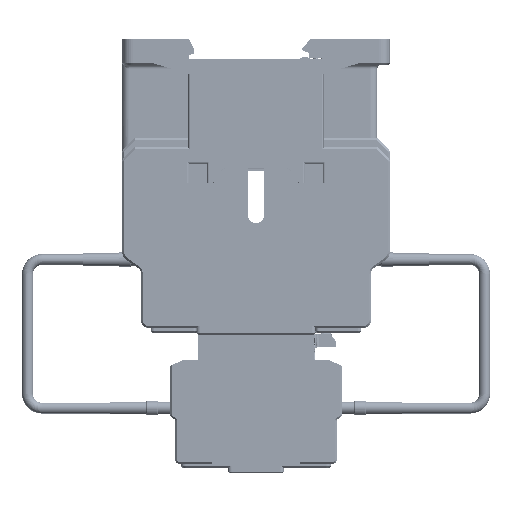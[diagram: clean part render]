
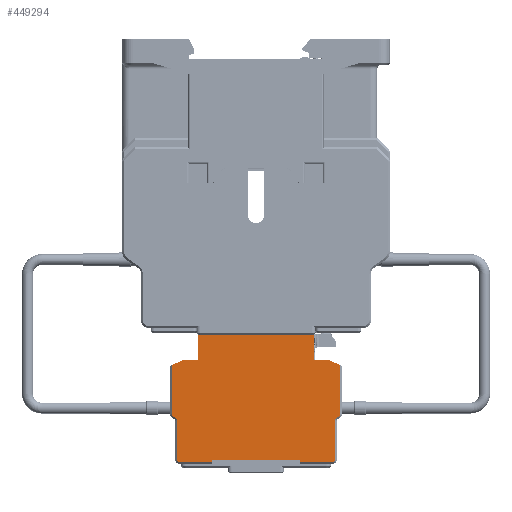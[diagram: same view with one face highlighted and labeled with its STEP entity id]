
A CAD part, left-side view. The second image highlights one B-rep face of the part: STEP entity #449294.
In plain terms, the highlighted planar face has unit normal (-1, 0, 0) as drawn and (1, 0, 0) by its records, which use the part's own axes.
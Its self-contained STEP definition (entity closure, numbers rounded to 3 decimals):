
#407339=DIRECTION('',(0.,-1.,0.));
#407340=VECTOR('',#407339,4.25);
#407341=CARTESIAN_POINT('',(22.25,-16.,10.9));
#407342=LINE('',#407341,#407340);
#414361=DIRECTION('',(0.,-1.,0.));
#414362=VECTOR('',#414361,9.068);
#414363=CARTESIAN_POINT('',(22.25,-12.182,-17.1));
#414364=LINE('',#414363,#414362);
#414368=CARTESIAN_POINT('',(22.25,-21.25,-16.6));
#414369=DIRECTION('',(-1.,0.,0.));
#414370=DIRECTION('',(0.,0.,-1.));
#414371=AXIS2_PLACEMENT_3D('',#414368,#414369,#414370);
#414376=DIRECTION('',(0.,0.,1.));
#414377=VECTOR('',#414376,10.679);
#414378=CARTESIAN_POINT('',(22.25,-21.75,-16.6));
#414379=LINE('',#414378,#414377);
#414383=CARTESIAN_POINT('',(22.25,-22.85,-5.921));
#414384=DIRECTION('',(1.,0.,0.));
#414385=DIRECTION('',(0.,1.,0.));
#414386=AXIS2_PLACEMENT_3D('',#414383,#414384,#414385);
#414391=DIRECTION('',(0.,-0.832,0.555));
#414392=VECTOR('',#414391,0.679);
#414393=CARTESIAN_POINT('',(22.25,-22.24,
-5.006));
#414394=LINE('',#414393,#414392);
#414398=CARTESIAN_POINT('',(22.25,-22.25,-3.797));
#414399=DIRECTION('',(-1.,0.,0.));
#414400=DIRECTION('',(0.,-0.555,-0.832));
#414401=AXIS2_PLACEMENT_3D('',#414398,#414399,#414400);
#414406=DIRECTION('',(0.,0.,1.));
#414407=VECTOR('',#414406,13.412);
#414408=CARTESIAN_POINT('',(22.25,-23.25,-3.797));
#414409=LINE('',#414408,#414407);
#414413=DIRECTION('',(0.,-0.919,-0.394));
#414414=VECTOR('',#414413,3.264);
#414415=CARTESIAN_POINT('',(22.25,-20.25,10.9));
#414416=LINE('',#414415,#414414);
#414420=DIRECTION('',(0.,0.,-1.));
#414421=VECTOR('',#414420,7.);
#414422=CARTESIAN_POINT('',(22.25,-16.,17.9));
#414423=LINE('',#414422,#414421);
#414427=DIRECTION('',(0.,1.,0.));
#414428=VECTOR('',#414427,32.);
#414429=CARTESIAN_POINT('',(22.25,-16.,17.9));
#414430=LINE('',#414429,#414428);
#414434=DIRECTION('',(0.,0.,-1.));
#414435=VECTOR('',#414434,7.);
#414436=CARTESIAN_POINT('',(22.25,16.,17.9));
#414437=LINE('',#414436,#414435);
#414441=DIRECTION('',(0.,-0.919,0.394));
#414442=VECTOR('',#414441,3.264);
#414443=CARTESIAN_POINT('',(22.25,23.25,9.614));
#414444=LINE('',#414443,#414442);
#414448=DIRECTION('',(0.,0.,-1.));
#414449=VECTOR('',#414448,13.412);
#414450=CARTESIAN_POINT('',(22.25,23.25,9.614));
#414451=LINE('',#414450,#414449);
#414455=CARTESIAN_POINT('',(22.25,22.25,-3.797));
#414456=DIRECTION('',(-1.,0.,0.));
#414457=DIRECTION('',(0.,1.,0.));
#414458=AXIS2_PLACEMENT_3D('',#414455,#414456,#414457);
#414463=DIRECTION('',(0.,-0.832,
-0.555));
#414464=VECTOR('',#414463,0.679);
#414465=CARTESIAN_POINT('',(22.25,22.805,-4.629));
#414466=LINE('',#414465,#414464);
#414470=CARTESIAN_POINT('',(22.25,22.85,-5.921));
#414471=DIRECTION('',(1.,0.,0.));
#414472=DIRECTION('',(0.,-0.555,0.832));
#414473=AXIS2_PLACEMENT_3D('',#414470,#414471,#414472);
#414478=DIRECTION('',(0.,0.,-1.));
#414479=VECTOR('',#414478,10.679);
#414480=CARTESIAN_POINT('',(22.25,21.75,
-5.921));
#414481=LINE('',#414480,#414479);
#414485=CARTESIAN_POINT('',(22.25,21.25,-16.6));
#414486=DIRECTION('',(-1.,0.,0.));
#414487=DIRECTION('',(0.,1.,0.));
#414488=AXIS2_PLACEMENT_3D('',#414485,#414486,#414487);
#414493=DIRECTION('',(0.,-1.,0.));
#414494=VECTOR('',#414493,9.068);
#414495=CARTESIAN_POINT('',(22.25,21.25,-17.1));
#414496=LINE('',#414495,#414494);
#414500=DIRECTION('',(0.,0.135,-0.991));
#414501=VECTOR('',#414500,0.606);
#414502=CARTESIAN_POINT('',(22.25,12.1,-16.5));
#414503=LINE('',#414502,#414501);
#414507=DIRECTION('',(0.,1.,0.));
#414508=VECTOR('',#414507,24.2);
#414509=CARTESIAN_POINT('',(22.25,-12.1,-16.5));
#414510=LINE('',#414509,#414508);
#414514=DIRECTION('',(0.,0.135,0.991));
#414515=VECTOR('',#414514,0.606);
#414516=CARTESIAN_POINT('',(22.25,-12.182,-17.1));
#414517=LINE('',#414516,#414515);
#421893=DIRECTION('',(0.,-1.,0.));
#421894=VECTOR('',#421893,4.25);
#421895=CARTESIAN_POINT('',(22.25,20.25,10.9));
#421896=LINE('',#421895,#421894);
#437149=CARTESIAN_POINT('',(22.25,16.,17.9));
#437151=VERTEX_POINT('',#437149);
#438459=CARTESIAN_POINT('',(22.25,16.,10.9));
#438460=VERTEX_POINT('',#438459);
#438476=CARTESIAN_POINT('',(22.25,-16.,17.9));
#438478=VERTEX_POINT('',#438476);
#438479=CARTESIAN_POINT('',(22.25,-16.,10.9));
#438480=VERTEX_POINT('',#438479);
#438569=CARTESIAN_POINT('',(22.25,-12.1,-16.5));
#438570=VERTEX_POINT('',#438569);
#438571=CARTESIAN_POINT('',(22.25,12.1,-16.5));
#438572=VERTEX_POINT('',#438571);
#438573=CARTESIAN_POINT('',(22.25,-20.25,10.9));
#438575=VERTEX_POINT('',#438573);
#438602=CARTESIAN_POINT('',(22.25,20.25,10.9));
#438604=VERTEX_POINT('',#438602);
#439249=CARTESIAN_POINT('',(22.25,-12.182,-17.1));
#439251=VERTEX_POINT('',#439249);
#439255=CARTESIAN_POINT('',(22.25,-21.25,-17.1));
#439256=VERTEX_POINT('',#439255);
#439258=CARTESIAN_POINT('',(22.25,-23.25,9.614));
#439260=VERTEX_POINT('',#439258);
#439261=CARTESIAN_POINT('',(22.25,-23.25,-3.797));
#439262=VERTEX_POINT('',#439261);
#439267=CARTESIAN_POINT('',(22.25,-22.805,-4.629));
#439268=VERTEX_POINT('',#439267);
#439271=CARTESIAN_POINT('',(22.25,-22.24,
-5.006));
#439272=VERTEX_POINT('',#439271);
#439275=CARTESIAN_POINT('',(22.25,-21.75,-5.921));
#439276=VERTEX_POINT('',#439275);
#439279=CARTESIAN_POINT('',(22.25,-21.75,-16.6));
#439280=VERTEX_POINT('',#439279);
#439322=CARTESIAN_POINT('',(22.25,12.182,-17.1));
#439324=VERTEX_POINT('',#439322);
#439325=CARTESIAN_POINT('',(22.25,21.25,-17.1));
#439326=VERTEX_POINT('',#439325);
#439331=CARTESIAN_POINT('',(22.25,23.25,9.614));
#439332=VERTEX_POINT('',#439331);
#439359=CARTESIAN_POINT('',(22.25,23.25,-3.797));
#439360=VERTEX_POINT('',#439359);
#439363=CARTESIAN_POINT('',(22.25,22.805,-4.629));
#439364=VERTEX_POINT('',#439363);
#439367=CARTESIAN_POINT('',(22.25,22.24,
-5.006));
#439368=VERTEX_POINT('',#439367);
#439371=CARTESIAN_POINT('',(22.25,21.75,-5.921));
#439372=VERTEX_POINT('',#439371);
#439375=CARTESIAN_POINT('',(22.25,21.75,-16.6));
#439376=VERTEX_POINT('',#439375);
#449253=CARTESIAN_POINT('',(22.25,-23.75,17.9));
#449254=DIRECTION('',(1.,0.,0.));
#449255=DIRECTION('',(0.,0.,-1.));
#449256=AXIS2_PLACEMENT_3D('',#449253,#449254,#449255);
#449257=PLANE('',#449256);
#449258=ORIENTED_EDGE('',*,*,#448971,.T.);
#449259=ORIENTED_EDGE('',*,*,#448985,.T.);
#449260=ORIENTED_EDGE('',*,*,#449112,.T.);
#449261=ORIENTED_EDGE('',*,*,#449127,.T.);
#449262=ORIENTED_EDGE('',*,*,#449220,.T.);
#449263=ORIENTED_EDGE('',*,*,#449234,.T.);
#449264=ORIENTED_EDGE('',*,*,#449246,.T.);
#449265=ORIENTED_EDGE('',*,*,#443837,.F.);
#449266=ORIENTED_EDGE('',*,*,#443749,.F.);
#449268=ORIENTED_EDGE('',*,*,#449267,.F.);
#449270=ORIENTED_EDGE('',*,*,#449269,.T.);
#449271=ORIENTED_EDGE('',*,*,#446465,.T.);
#449273=ORIENTED_EDGE('',*,*,#449272,.F.);
#449275=ORIENTED_EDGE('',*,*,#449274,.F.);
#449277=ORIENTED_EDGE('',*,*,#449276,.T.);
#449279=ORIENTED_EDGE('',*,*,#449278,.T.);
#449281=ORIENTED_EDGE('',*,*,#449280,.T.);
#449283=ORIENTED_EDGE('',*,*,#449282,.T.);
#449285=ORIENTED_EDGE('',*,*,#449284,.T.);
#449286=ORIENTED_EDGE('',*,*,#448895,.T.);
#449287=ORIENTED_EDGE('',*,*,#448909,.T.);
#449288=ORIENTED_EDGE('',*,*,#448927,.F.);
#449290=ORIENTED_EDGE('',*,*,#449289,.F.);
#449291=ORIENTED_EDGE('',*,*,#448953,.F.);
#449292=EDGE_LOOP('',(#449258,#449259,#449260,#449261,#449262,#449263,#449264,
#449265,#449266,#449268,#449270,#449271,#449273,#449275,#449277,#449279,#449281,
#449283,#449285,#449286,#449287,#449288,#449290,#449291));
#449293=FACE_OUTER_BOUND('',#449292,.F.);
#449294=ADVANCED_FACE('',(#449293),#449257,.T.);
#414372=CIRCLE('',#414371,0.5);
#414387=CIRCLE('',#414386,1.1);
#414402=CIRCLE('',#414401,1.);
#414459=CIRCLE('',#414458,1.);
#414474=CIRCLE('',#414473,1.1);
#414489=CIRCLE('',#414488,0.5);
#443749=EDGE_CURVE('',#438480,#438575,#407342,.T.);
#443837=EDGE_CURVE('',#438575,#439260,#414416,.T.);
#446465=EDGE_CURVE('',#437151,#438460,#414437,.T.);
#448895=EDGE_CURVE('',#439376,#439326,#414489,.T.);
#448909=EDGE_CURVE('',#439326,#439324,#414496,.T.);
#448927=EDGE_CURVE('',#438572,#439324,#414503,.T.);
#448953=EDGE_CURVE('',#439251,#438570,#414517,.T.);
#448971=EDGE_CURVE('',#439251,#439256,#414364,.T.);
#448985=EDGE_CURVE('',#439256,#439280,#414372,.T.);
#449112=EDGE_CURVE('',#439280,#439276,#414379,.T.);
#449127=EDGE_CURVE('',#439276,#439272,#414387,.T.);
#449220=EDGE_CURVE('',#439272,#439268,#414394,.T.);
#449234=EDGE_CURVE('',#439268,#439262,#414402,.T.);
#449246=EDGE_CURVE('',#439262,#439260,#414409,.T.);
#449267=EDGE_CURVE('',#438478,#438480,#414423,.T.);
#449269=EDGE_CURVE('',#438478,#437151,#414430,.T.);
#449272=EDGE_CURVE('',#438604,#438460,#421896,.T.);
#449274=EDGE_CURVE('',#439332,#438604,#414444,.T.);
#449276=EDGE_CURVE('',#439332,#439360,#414451,.T.);
#449278=EDGE_CURVE('',#439360,#439364,#414459,.T.);
#449280=EDGE_CURVE('',#439364,#439368,#414466,.T.);
#449282=EDGE_CURVE('',#439368,#439372,#414474,.T.);
#449284=EDGE_CURVE('',#439372,#439376,#414481,.T.);
#449289=EDGE_CURVE('',#438570,#438572,#414510,.T.);
